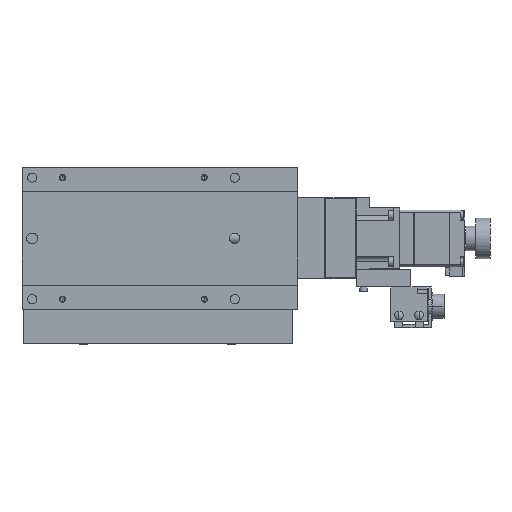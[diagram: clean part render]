
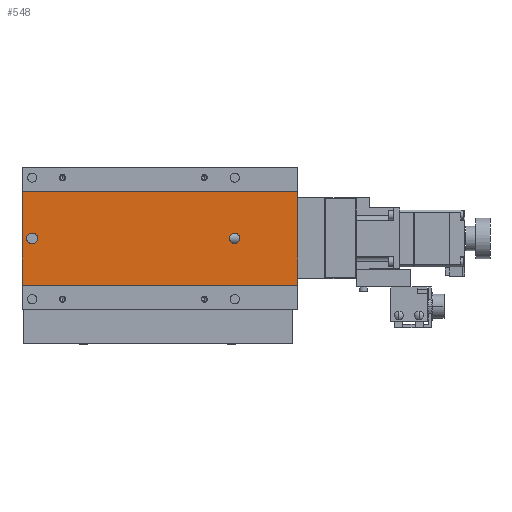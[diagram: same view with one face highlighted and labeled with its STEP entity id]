
A CAD part, front view. The second image highlights one B-rep face of the part: STEP entity #548.
In plain terms, the highlighted planar face has unit normal (0, -1, 0).
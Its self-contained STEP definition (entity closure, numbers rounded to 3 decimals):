
#548=ADVANCED_FACE('',(#1563,#1564,#1565),#1566,.F.);
#1563=FACE_BOUND('',#3177,.T.);
#1564=FACE_OUTER_BOUND('',#3178,.T.);
#1565=FACE_BOUND('',#3179,.T.);
#1566=PLANE('',#3180);
#3177=EDGE_LOOP('',(#6170,#6171,#6172,#6173));
#3178=EDGE_LOOP('',(#6174,#6175,#6176,#6177));
#3179=EDGE_LOOP('',(#6178,#6179,#6180));
#3180=AXIS2_PLACEMENT_3D('',#6181,#6182,#6183);
#6170=ORIENTED_EDGE('',*,*,#11021,.F.);
#6171=ORIENTED_EDGE('',*,*,#11022,.F.);
#6172=ORIENTED_EDGE('',*,*,#11023,.F.);
#6173=ORIENTED_EDGE('',*,*,#11024,.F.);
#6174=ORIENTED_EDGE('',*,*,#11006,.T.);
#6175=ORIENTED_EDGE('',*,*,#11025,.F.);
#6176=ORIENTED_EDGE('',*,*,#11026,.F.);
#6177=ORIENTED_EDGE('',*,*,#11027,.T.);
#6178=ORIENTED_EDGE('',*,*,#10906,.F.);
#6179=ORIENTED_EDGE('',*,*,#10905,.F.);
#6180=ORIENTED_EDGE('',*,*,#11028,.F.);
#6181=CARTESIAN_POINT('',(81.0,0.3,23.1));
#6182=DIRECTION('',(0.0,1.0,0.));
#6183=DIRECTION('',(1.0,0.0,0.0));
#10905=EDGE_CURVE('',#13166,#13168,#13169,.F.);
#10906=EDGE_CURVE('',#13168,#13162,#13170,.F.);
#11006=EDGE_CURVE('',#13357,#13355,#13358,.T.);
#11021=EDGE_CURVE('',#13385,#13386,#13387,.F.);
#11022=EDGE_CURVE('',#13388,#13385,#13389,.T.);
#11023=EDGE_CURVE('',#13390,#13388,#13391,.F.);
#11024=EDGE_CURVE('',#13386,#13390,#13392,.T.);
#11025=EDGE_CURVE('',#13393,#13355,#13394,.T.);
#11026=EDGE_CURVE('',#13395,#13393,#13396,.T.);
#11027=EDGE_CURVE('',#13395,#13357,#13397,.T.);
#11028=EDGE_CURVE('',#13162,#13166,#13398,.F.);
#13162=VERTEX_POINT('',#16698);
#13166=VERTEX_POINT('',#16703);
#13168=VERTEX_POINT('',#16706);
#13169=CIRCLE('',#16707,2.5);
#13170=CIRCLE('',#16708,2.5);
#13355=VERTEX_POINT('',#16949);
#13357=VERTEX_POINT('',#16952);
#13358=LINE('',#16953,#16954);
#13385=VERTEX_POINT('',#16994);
#13386=VERTEX_POINT('',#16995);
#13387=CIRCLE('',#16996,2.5);
#13388=VERTEX_POINT('',#16997);
#13389=LINE('',#16998,#16999);
#13390=VERTEX_POINT('',#17000);
#13391=CIRCLE('',#17001,2.5);
#13392=LINE('',#17002,#17003);
#13393=VERTEX_POINT('',#17004);
#13394=LINE('',#17005,#17006);
#13395=VERTEX_POINT('',#17007);
#13396=LINE('',#17008,#17009);
#13397=LINE('',#17010,#17011);
#13398=CIRCLE('',#17012,2.5);
#16698=CARTESIAN_POINT('',(47.5,0.3,0.));
#16703=CARTESIAN_POINT('',(52.5,0.3,0.));
#16706=CARTESIAN_POINT('',(50.0,0.3,2.5));
#16707=AXIS2_PLACEMENT_3D('',#20843,#20844,#20845);
#16708=AXIS2_PLACEMENT_3D('',#20846,#20847,#20848);
#16949=CARTESIAN_POINT('',(-55.0,0.3,-23.1));
#16952=CARTESIAN_POINT('',(-55.0,0.3,23.1));
#16953=CARTESIAN_POINT('',(-55.0,0.3,23.1));
#16954=VECTOR('',#21032,1000.0);
#16994=CARTESIAN_POINT('',(-50.25,0.3,2.5));
#16995=CARTESIAN_POINT('',(-50.25,0.3,-2.5));
#16996=AXIS2_PLACEMENT_3D('',#21049,#21050,#21051);
#16997=CARTESIAN_POINT('',(-49.75,0.3,2.5));
#16998=CARTESIAN_POINT('',(81.0,0.3,2.5));
#16999=VECTOR('',#21052,1000.0);
#17000=CARTESIAN_POINT('',(-49.75,0.3,-2.5));
#17001=AXIS2_PLACEMENT_3D('',#21053,#21054,#21055);
#17002=CARTESIAN_POINT('',(81.0,0.3,-2.5));
#17003=VECTOR('',#21056,1000.0);
#17004=CARTESIAN_POINT('',(81.0,0.3,-23.1));
#17005=CARTESIAN_POINT('',(81.0,0.3,-23.1));
#17006=VECTOR('',#21057,1000.0);
#17007=CARTESIAN_POINT('',(81.0,0.3,23.1));
#17008=CARTESIAN_POINT('',(81.0,0.3,23.1));
#17009=VECTOR('',#21058,1000.0);
#17010=CARTESIAN_POINT('',(81.0,0.3,23.1));
#17011=VECTOR('',#21059,1000.0);
#17012=AXIS2_PLACEMENT_3D('',#21060,#21061,#21062);
#20843=CARTESIAN_POINT('',(50.0,0.3,0.0));
#20844=DIRECTION('',(0.0,1.0,0.));
#20845=DIRECTION('',(0.0,0.,1.0));
#20846=CARTESIAN_POINT('',(50.0,0.3,0.0));
#20847=DIRECTION('',(0.0,1.0,0.));
#20848=DIRECTION('',(0.0,0.,1.0));
#21032=DIRECTION('',(0.0,0.,-1.0));
#21049=CARTESIAN_POINT('',(-50.25,0.3,0.));
#21050=DIRECTION('',(0.0,1.0,0.));
#21051=DIRECTION('',(0.0,0.,1.0));
#21052=DIRECTION('',(-1.0,0.0,0.0));
#21053=CARTESIAN_POINT('',(-49.75,0.3,0.));
#21054=DIRECTION('',(0.0,1.0,0.));
#21055=DIRECTION('',(0.0,0.,1.0));
#21056=DIRECTION('',(1.0,0.0,0.0));
#21057=DIRECTION('',(-1.0,0.0,0.0));
#21058=DIRECTION('',(0.0,0.,-1.0));
#21059=DIRECTION('',(-1.0,0.0,0.0));
#21060=CARTESIAN_POINT('',(50.0,0.3,0.0));
#21061=DIRECTION('',(0.0,1.0,0.));
#21062=DIRECTION('',(0.0,0.,1.0));
